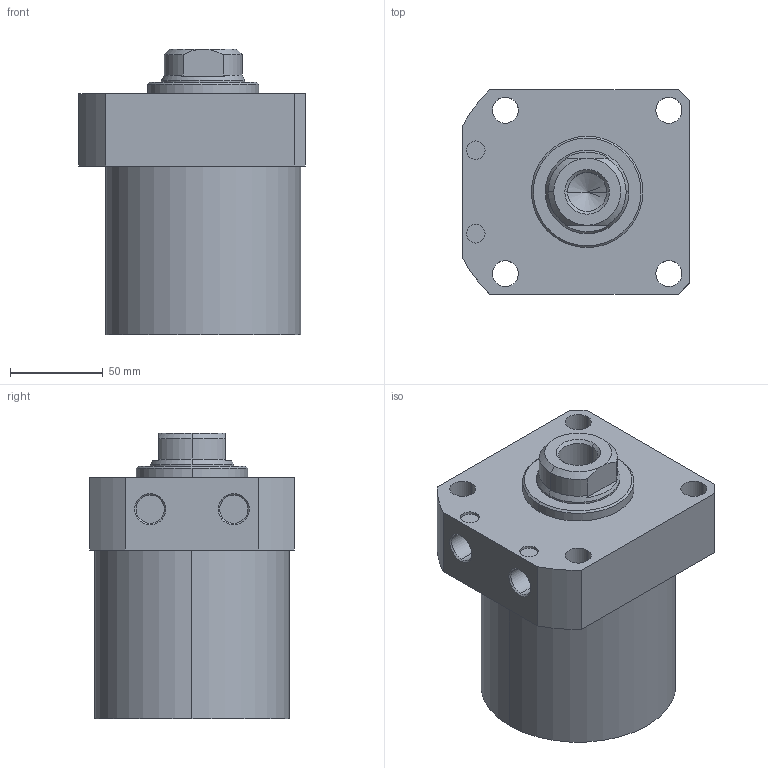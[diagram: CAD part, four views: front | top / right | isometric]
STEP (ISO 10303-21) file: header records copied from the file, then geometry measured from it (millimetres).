
FILE_DESCRIPTION (( 'STEP AP203' ), '1' );
FILE_NAME ('CLLR-105CA-070.STEP', '2019-12-19T01:35:21', ( '' ), ( '' ), 'SwSTEP 2.0', 'SolidWorks 2015', '' );
FILE_SCHEMA (( 'CONFIG_CONTROL_DESIGN' ));
Length unit declared in the file: millimetre
Products named in the file (1): CLLR-105CA-070
Bounding box: 122 x 110 x 154 mm (x, y, z)
Volume: 1290115.9 mm3; surface area: 87661.5 mm2
Topology: 1 solids, 1 shells, 63 faces, 146 edges, 91 vertices
Faces by surface type: cylinder 29, plane 19, cone 15
Entity records: 1923 total; most frequent: CARTESIAN_POINT 355, DIRECTION 336, ORIENTED_EDGE 288, EDGE_CURVE 144, AXIS2_PLACEMENT_3D 136, VERTEX_POINT 91, EDGE_LOOP 79, CIRCLE 72
